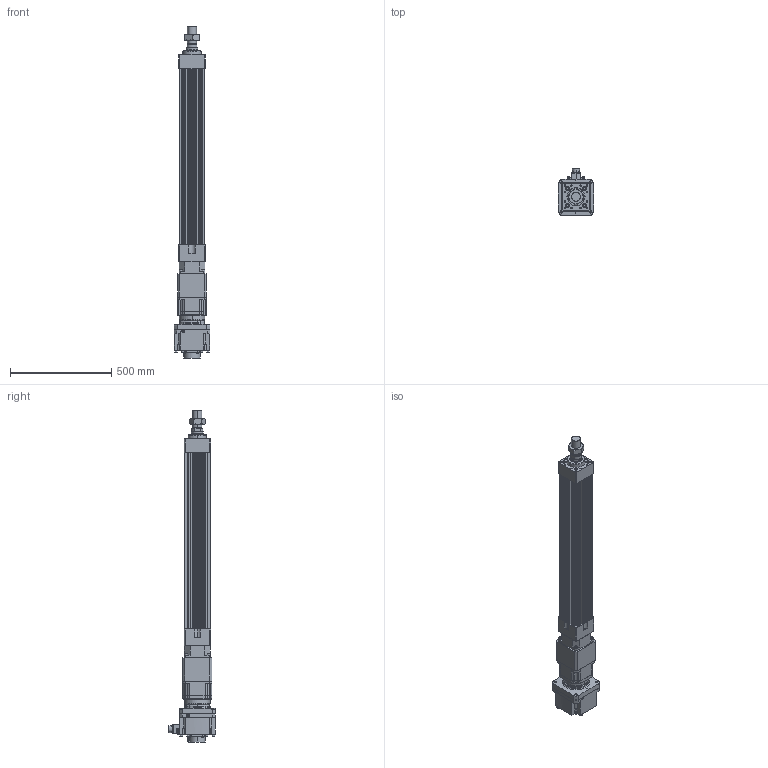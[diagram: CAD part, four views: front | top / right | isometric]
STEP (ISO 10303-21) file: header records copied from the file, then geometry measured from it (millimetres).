
FILE_DESCRIPTION (( 'STEP AP203' ), '1' );
FILE_NAME ('HES130FS(HS)-S650-W020G00-M.STEP', '2023-01-30T12:01:08', ( 'tms' ), ( '' ), 'SwSTEP 2.0', 'SolidWorks 2013', '' );
FILE_SCHEMA (( 'CONFIG_CONTROL_DESIGN' ));
Length unit declared in the file: millimetre
Products named in the file (9): M45X1.5P; HES130FS(HS)-S650-W020G00-M; HES130-S650-G142; AB142-003[HG-SR352]; P0403500801; AB1421; HES130 ROD M ST650; P1301500001; HG-SR202
Assembly tree (8 placements, depth 3):
  HES130FS(HS)-S650-W020G00-M
    HES130-S650-G142
    HES130 ROD M ST650
    M45X1.5P
    AB142-003[HG-SR352]
      AB1421
      P1301500001
      P0403500801
    HG-SR202
Bounding box: 176 x 228.85 x 1637.5 mm (x, y, z)
Volume: 14148580 mm3; surface area: 1864182.1 mm2
Topology: 4 solids, 22 shells, 1527 faces, 3928 edges, 2530 vertices
Faces by surface type: cylinder 683, plane 580, cone 182, bspline 76, torus 6
Entity records: 55214 total; most frequent: CARTESIAN_POINT 16756, DIRECTION 8052, ORIENTED_EDGE 7718, EDGE_CURVE 3881, AXIS2_PLACEMENT_3D 3043, VERTEX_POINT 2530, LINE 1966, VECTOR 1966
